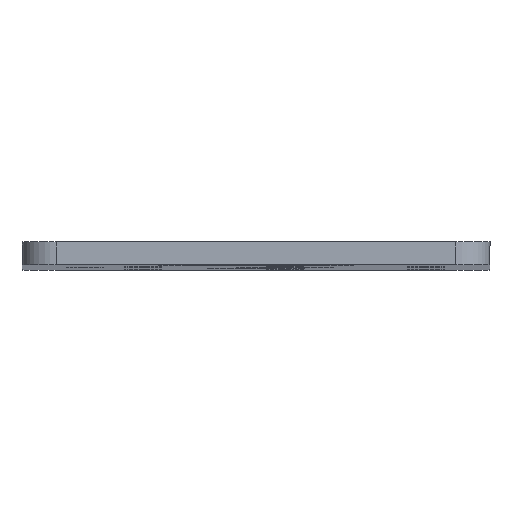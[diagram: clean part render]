
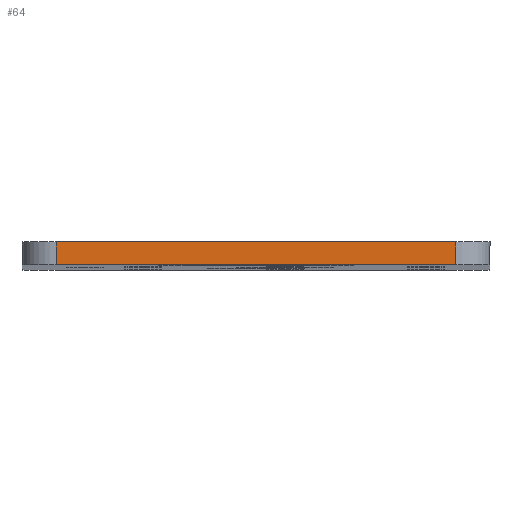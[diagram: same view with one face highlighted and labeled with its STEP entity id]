
A CAD part, top view. The second image highlights one B-rep face of the part: STEP entity #64.
In plain terms, the highlighted planar face has unit normal (0, 0, 1).
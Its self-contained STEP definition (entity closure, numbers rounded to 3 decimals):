
#64=ADVANCED_FACE('',(#901),#903,.T.);
#901=FACE_BOUND('',#902,.T.);
#902=EDGE_LOOP('',(#4530,#4531,#4532,#4533));
#903=PLANE('',#904);
#904=AXIS2_PLACEMENT_3D('',#905,#906,#907);
#905=CARTESIAN_POINT('',(0.,0.,276.8));
#906=DIRECTION('',(0.,0.,1.));
#907=DIRECTION('',(-1.,0.,0.));
#4530=ORIENTED_EDGE('',*,*,#4734,.T.);
#4531=ORIENTED_EDGE('',*,*,#4643,.T.);
#4532=ORIENTED_EDGE('',*,*,#4735,.T.);
#4533=ORIENTED_EDGE('',*,*,#4682,.T.);
#4643=EDGE_CURVE('',#4747,#4759,#4761,.T.);
#4682=EDGE_CURVE('',#4839,#4836,#4840,.T.);
#4734=EDGE_CURVE('',#4836,#4747,#4934,.T.);
#4735=EDGE_CURVE('',#4759,#4839,#4935,.T.);
#4747=VERTEX_POINT('',#4947);
#4759=VERTEX_POINT('',#4974);
#4761=LINE('',#4979,#4980);
#4836=VERTEX_POINT('',#5161);
#4839=VERTEX_POINT('',#5167);
#4840=LINE('',#5168,#5169);
#4934=LINE('',#5400,#5401);
#4935=LINE('',#5403,#5404);
#4947=CARTESIAN_POINT('',(-38.,-2.,276.8));
#4974=CARTESIAN_POINT('',(-3.,-2.,276.8));
#4979=CARTESIAN_POINT('',(-38.,-2.,276.8));
#4980=VECTOR('',#4981,1.);
#4981=DIRECTION('',(1.,0.,0.));
#5161=CARTESIAN_POINT('',(-38.,0.,276.8));
#5167=CARTESIAN_POINT('',(-3.,0.,276.8));
#5168=CARTESIAN_POINT('',(-3.,0.,276.8));
#5169=VECTOR('',#5170,1.);
#5170=DIRECTION('',(-1.,0.,0.));
#5400=CARTESIAN_POINT('',(-38.,0.,276.8));
#5401=VECTOR('',#5402,1.);
#5402=DIRECTION('',(0.,-1.,0.));
#5403=CARTESIAN_POINT('',(-3.,-2.,276.8));
#5404=VECTOR('',#5405,1.);
#5405=DIRECTION('',(0.,1.,0.));
